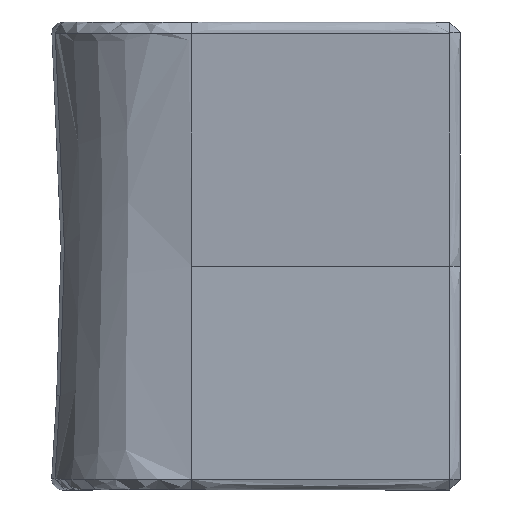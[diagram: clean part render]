
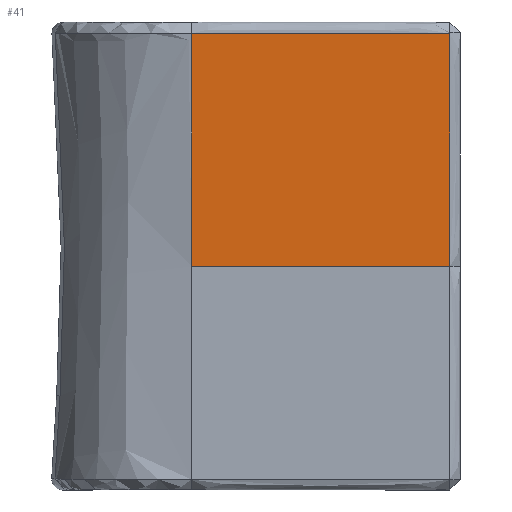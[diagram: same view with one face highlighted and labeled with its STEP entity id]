
A CAD part, left-side view. The second image highlights one B-rep face of the part: STEP entity #41.
In plain terms, the highlighted free-form (B-spline) face has degree [3, 1] with [4, 2] control points.
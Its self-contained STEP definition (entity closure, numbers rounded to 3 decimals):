
#41=ADVANCED_FACE('',(#130),#1255,.T.);
#130=FACE_OUTER_BOUND('',#219,.T.);
#219=EDGE_LOOP('',(#402,#403,#404,#405));
#402=ORIENTED_EDGE('',*,*,#760,.T.);
#403=ORIENTED_EDGE('',*,*,#779,.T.);
#404=ORIENTED_EDGE('',*,*,#790,.T.);
#405=ORIENTED_EDGE('',*,*,#810,.T.);
#760=EDGE_CURVE('',#1181,#1182,#1051,.T.);
#779=EDGE_CURVE('',#1182,#1183,#950,.T.);
#790=EDGE_CURVE('',#1183,#1120,#960,.T.);
#810=EDGE_CURVE('',#1120,#1181,#1066,.T.);
#950=B_SPLINE_CURVE_WITH_KNOTS('',3,(#5836,#5837,#5838,#5839,#5840,#5841,
#5842,#5843,#5844,#5845,#5846,#5847,#5848,#5849,#5850),.UNSPECIFIED.,.F.,
 .F.,(4,1,1,1,1,1,1,1,1,1,1,1,4),(-1.,-0.935,-0.87,
-0.805,-0.74,-0.61,-0.48,
-0.349,-0.219,-0.154,-0.089,
-0.024,0.),.UNSPECIFIED.);
#960=B_SPLINE_CURVE_WITH_KNOTS('',3,(#6195,#6196,#6197,#6198),
 .UNSPECIFIED.,.F.,.F.,(4,4),(-369.569,0.),.UNSPECIFIED.);
#1051=(
BOUNDED_CURVE()
B_SPLINE_CURVE(1,(#5654,#5655),.UNSPECIFIED.,.F.,.F.)
B_SPLINE_CURVE_WITH_KNOTS((2,2),(-369.569,0.),.UNSPECIFIED.)
CURVE()
GEOMETRIC_REPRESENTATION_ITEM()
RATIONAL_B_SPLINE_CURVE((1.,1.))
REPRESENTATION_ITEM('')
);
#1066=(
BOUNDED_CURVE()
B_SPLINE_CURVE(3,(#6458,#6459,#6460,#6461),.UNSPECIFIED.,.F.,.F.)
B_SPLINE_CURVE_WITH_KNOTS((4,4),(-960.602,0.),.UNSPECIFIED.)
CURVE()
GEOMETRIC_REPRESENTATION_ITEM()
RATIONAL_B_SPLINE_CURVE((1.,0.999,0.999,1.))
REPRESENTATION_ITEM('')
);
#1120=VERTEX_POINT('',#4557);
#1181=VERTEX_POINT('',#4618);
#1182=VERTEX_POINT('',#4619);
#1183=VERTEX_POINT('',#4620);
#1255=(
BOUNDED_SURFACE()
B_SPLINE_SURFACE(3,1,((#2274,#2275),(#2276,#2277),(#2278,#2279),(#2280,
#2281)),.UNSPECIFIED.,.F.,.F.,.F.)
B_SPLINE_SURFACE_WITH_KNOTS((4,4),(2,2),(0.,334.203),
(0.,369.569),.UNSPECIFIED.)
GEOMETRIC_REPRESENTATION_ITEM()
RATIONAL_B_SPLINE_SURFACE(((1.,1.),(0.965,0.965),
(0.931,0.931),(0.899,0.899)))
REPRESENTATION_ITEM('')
SURFACE()
);
#2274=CARTESIAN_POINT('',(-301.131,-200.385,320.));
#2275=CARTESIAN_POINT('',(-301.131,-569.954,320.));
#2276=CARTESIAN_POINT('',(-301.131,-200.385,429.411));
#2277=CARTESIAN_POINT('',(-301.131,-569.954,429.411));
#2278=CARTESIAN_POINT('',(-307.174,-200.385,540.682));
#2279=CARTESIAN_POINT('',(-307.174,-569.954,540.682));
#2280=CARTESIAN_POINT('',(-319.898,-200.385,653.323));
#2281=CARTESIAN_POINT('',(-319.898,-569.954,653.323));
#4557=CARTESIAN_POINT('',(-319.898,-569.954,653.323));
#4618=CARTESIAN_POINT('',(-301.131,-569.954,320.));
#4619=CARTESIAN_POINT('',(-301.131,-200.385,320.));
#4620=CARTESIAN_POINT('',(-319.898,-200.385,653.323));
#5654=CARTESIAN_POINT('',(-301.131,-569.954,320.));
#5655=CARTESIAN_POINT('',(-301.131,-200.385,320.));
#5836=CARTESIAN_POINT('',(-301.131,-200.385,320.));
#5837=CARTESIAN_POINT('',(-301.131,-200.385,329.218));
#5838=CARTESIAN_POINT('',(-301.215,-200.385,346.543));
#5839=CARTESIAN_POINT('',(-301.53,-200.385,370.446));
#5840=CARTESIAN_POINT('',(-302.,-200.385,392.928));
#5841=CARTESIAN_POINT('',(-302.81,-200.385,421.563));
#5842=CARTESIAN_POINT('',(-304.14,-200.385,455.626));
#5843=CARTESIAN_POINT('',(-306.222,-200.385,495.309));
#5844=CARTESIAN_POINT('',(-308.832,-200.385,534.96));
#5845=CARTESIAN_POINT('',(-311.526,-200.385,568.943));
#5846=CARTESIAN_POINT('',(-314.096,-200.385,597.475));
#5847=CARTESIAN_POINT('',(-316.279,-200.385,619.856));
#5848=CARTESIAN_POINT('',(-318.259,-200.385,638.646));
#5849=CARTESIAN_POINT('',(-319.54,-200.385,650.152));
#5850=CARTESIAN_POINT('',(-319.898,-200.385,653.323));
#6195=CARTESIAN_POINT('',(-319.898,-200.385,653.323));
#6196=CARTESIAN_POINT('',(-319.898,-323.574,653.323));
#6197=CARTESIAN_POINT('',(-319.898,-446.764,653.323));
#6198=CARTESIAN_POINT('',(-319.898,-569.954,653.323));
#6458=CARTESIAN_POINT('',(-319.898,-569.954,653.323));
#6459=CARTESIAN_POINT('',(-307.174,-569.954,540.682));
#6460=CARTESIAN_POINT('',(-301.131,-569.954,429.411));
#6461=CARTESIAN_POINT('',(-301.131,-569.954,320.));
